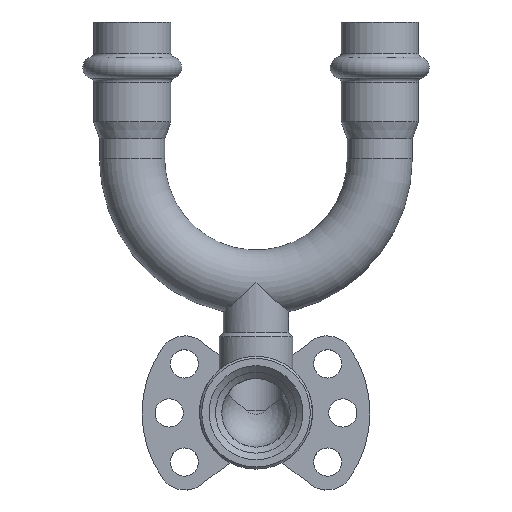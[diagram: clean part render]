
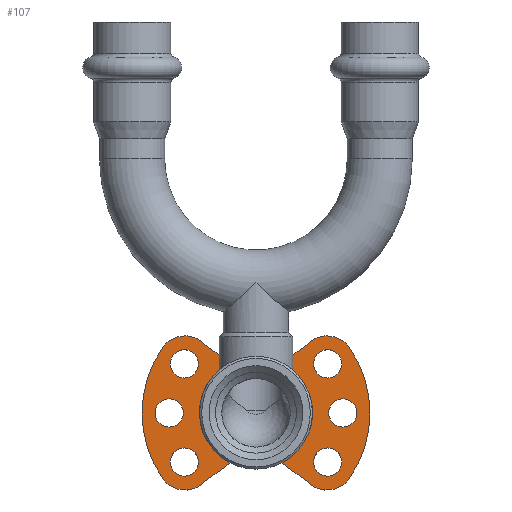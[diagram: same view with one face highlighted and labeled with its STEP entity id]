
A CAD part, top view. The second image highlights one B-rep face of the part: STEP entity #107.
In plain terms, the highlighted planar face has unit normal (0, 0, 1).
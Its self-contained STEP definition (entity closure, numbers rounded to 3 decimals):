
#107=ADVANCED_FACE('',(#798,#800,#802,#804,#806,#808,#810),#812,.F.);
#798=FACE_BOUND('',#799,.T.);
#799=EDGE_LOOP('',(#2439,#2440,#2441,#2442,#2443,#2444,#2445,#2446,#2447,#2448,#2449,
#2450,#2451,#2452,#2453,#2454,#2455,#2456));
#800=FACE_BOUND('',#801,.T.);
#801=EDGE_LOOP('',(#2457));
#802=FACE_BOUND('',#803,.T.);
#803=EDGE_LOOP('',(#2458));
#804=FACE_BOUND('',#805,.T.);
#805=EDGE_LOOP('',(#2459));
#806=FACE_BOUND('',#807,.T.);
#807=EDGE_LOOP('',(#2460));
#808=FACE_BOUND('',#809,.T.);
#809=EDGE_LOOP('',(#2461));
#810=FACE_BOUND('',#811,.T.);
#811=EDGE_LOOP('',(#2462));
#812=PLANE('',#813);
#813=AXIS2_PLACEMENT_3D('',#814,#815,#816);
#814=CARTESIAN_POINT('',(0.,0.,-12.));
#815=DIRECTION('',(0.,0.,-1.));
#816=DIRECTION('',(-1.,0.,0.));
#2439=ORIENTED_EDGE('',*,*,#3925,.F.);
#2440=ORIENTED_EDGE('',*,*,#3762,.T.);
#2441=ORIENTED_EDGE('',*,*,#3758,.F.);
#2442=ORIENTED_EDGE('',*,*,#3926,.F.);
#2443=ORIENTED_EDGE('',*,*,#3927,.F.);
#2444=ORIENTED_EDGE('',*,*,#3928,.F.);
#2445=ORIENTED_EDGE('',*,*,#3929,.F.);
#2446=ORIENTED_EDGE('',*,*,#3930,.F.);
#2447=ORIENTED_EDGE('',*,*,#3931,.T.);
#2448=ORIENTED_EDGE('',*,*,#3932,.T.);
#2449=ORIENTED_EDGE('',*,*,#3933,.T.);
#2450=ORIENTED_EDGE('',*,*,#3934,.T.);
#2451=ORIENTED_EDGE('',*,*,#3935,.T.);
#2452=ORIENTED_EDGE('',*,*,#3936,.T.);
#2453=ORIENTED_EDGE('',*,*,#3754,.T.);
#2454=ORIENTED_EDGE('',*,*,#3751,.T.);
#2455=ORIENTED_EDGE('',*,*,#3924,.F.);
#2456=ORIENTED_EDGE('',*,*,#3937,.T.);
#2457=ORIENTED_EDGE('',*,*,#3938,.T.);
#2458=ORIENTED_EDGE('',*,*,#3939,.T.);
#2459=ORIENTED_EDGE('',*,*,#3940,.T.);
#2460=ORIENTED_EDGE('',*,*,#3941,.F.);
#2461=ORIENTED_EDGE('',*,*,#3942,.F.);
#2462=ORIENTED_EDGE('',*,*,#3943,.F.);
#3751=EDGE_CURVE('',#4452,#4450,#4453,.T.);
#3754=EDGE_CURVE('',#4456,#4452,#4457,.T.);
#3758=EDGE_CURVE('',#4462,#4464,#4465,.T.);
#3762=EDGE_CURVE('',#4468,#4464,#4471,.F.);
#3924=EDGE_CURVE('',#4790,#4450,#4792,.F.);
#3925=EDGE_CURVE('',#4468,#4793,#4794,.F.);
#3926=EDGE_CURVE('',#4795,#4462,#4796,.T.);
#3927=EDGE_CURVE('',#4797,#4795,#4798,.T.);
#3928=EDGE_CURVE('',#4799,#4797,#4800,.T.);
#3929=EDGE_CURVE('',#4801,#4799,#4802,.T.);
#3930=EDGE_CURVE('',#4803,#4801,#4804,.T.);
#3931=EDGE_CURVE('',#4803,#4805,#4806,.T.);
#3932=EDGE_CURVE('',#4805,#4807,#4808,.T.);
#3933=EDGE_CURVE('',#4807,#4809,#4810,.T.);
#3934=EDGE_CURVE('',#4809,#4811,#4812,.T.);
#3935=EDGE_CURVE('',#4811,#4813,#4814,.T.);
#3936=EDGE_CURVE('',#4813,#4456,#4815,.T.);
#3937=EDGE_CURVE('',#4790,#4793,#4816,.F.);
#3938=EDGE_CURVE('',#4817,#4817,#4818,.T.);
#3939=EDGE_CURVE('',#4819,#4819,#4820,.T.);
#3940=EDGE_CURVE('',#4821,#4821,#4822,.T.);
#3941=EDGE_CURVE('',#4823,#4823,#4824,.T.);
#3942=EDGE_CURVE('',#4825,#4825,#4826,.T.);
#3943=EDGE_CURVE('',#4827,#4827,#4828,.T.);
#4450=VERTEX_POINT('',#6537);
#4452=VERTEX_POINT('',#6541);
#4453=LINE('',#6542,#6543);
#4456=VERTEX_POINT('',#6552);
#4457=LINE('',#6553,#6554);
#4462=VERTEX_POINT('',#6564);
#4464=VERTEX_POINT('',#6568);
#4465=LINE('',#6569,#6570);
#4468=VERTEX_POINT('',#6576);
#4471=LINE('',#6584,#6585);
#4790=VERTEX_POINT('',#8124);
#4792=CIRCLE('',#8128,1.);
#4793=VERTEX_POINT('',#8132);
#4794=CIRCLE('',#8133,1.);
#4795=VERTEX_POINT('',#8137);
#4796=LINE('',#8138,#8139);
#4797=VERTEX_POINT('',#8141);
#4798=CIRCLE('',#8142,6.25);
#4799=VERTEX_POINT('',#8146);
#4800=CIRCLE('',#8147,26.25);
#4801=VERTEX_POINT('',#8151);
#4802=CIRCLE('',#8152,6.25);
#4803=VERTEX_POINT('',#8156);
#4804=LINE('',#8157,#8158);
#4805=VERTEX_POINT('',#8160);
#4806=LINE('',#8161,#8162);
#4807=VERTEX_POINT('',#8164);
#4808=LINE('',#8165,#8166);
#4809=VERTEX_POINT('',#8168);
#4810=CIRCLE('',#8169,6.25);
#4811=VERTEX_POINT('',#8173);
#4812=CIRCLE('',#8174,26.25);
#4813=VERTEX_POINT('',#8178);
#4814=CIRCLE('',#8179,6.25);
#4815=LINE('',#8183,#8184);
#4816=LINE('',#8186,#8187);
#4817=VERTEX_POINT('',#8189);
#4818=CIRCLE('',#8190,3.25);
#4819=VERTEX_POINT('',#8194);
#4820=CIRCLE('',#8195,3.25);
#4821=VERTEX_POINT('',#8199);
#4822=CIRCLE('',#8200,3.25);
#4823=VERTEX_POINT('',#8204);
#4824=CIRCLE('',#8205,3.25);
#4825=VERTEX_POINT('',#8209);
#4826=CIRCLE('',#8210,3.25);
#4827=VERTEX_POINT('',#8214);
#4828=CIRCLE('',#8215,3.25);
#6537=CARTESIAN_POINT('',(4.,-4.25,-12.));
#6541=CARTESIAN_POINT('',(4.,10.75,-12.));
#6542=CARTESIAN_POINT('',(4.,10.75,-12.));
#6543=VECTOR('',#6544,1.);
#6544=DIRECTION('',(0.,-1.,0.));
#6552=CARTESIAN_POINT('',(5.,10.75,-12.));
#6553=CARTESIAN_POINT('',(5.,10.75,-12.));
#6554=VECTOR('',#6555,1.);
#6555=DIRECTION('',(-1.,0.,0.));
#6564=CARTESIAN_POINT('',(-5.,10.75,-12.));
#6568=CARTESIAN_POINT('',(-4.,10.75,-12.));
#6569=CARTESIAN_POINT('',(-5.,10.75,-12.));
#6570=VECTOR('',#6571,1.);
#6571=DIRECTION('',(1.,0.,0.));
#6576=CARTESIAN_POINT('',(-4.,-4.25,-12.));
#6584=CARTESIAN_POINT('',(-4.,10.75,-12.));
#6585=VECTOR('',#6586,1.);
#6586=DIRECTION('',(0.,-1.,0.));
#8124=CARTESIAN_POINT('',(3.,-5.25,-12.));
#8128=AXIS2_PLACEMENT_3D('',#8129,#8130,#8131);
#8129=CARTESIAN_POINT('',(3.,-4.25,-12.));
#8130=DIRECTION('',(0.,0.,-1.));
#8131=DIRECTION('',(1.,0.,0.));
#8132=CARTESIAN_POINT('',(-3.,-5.25,-12.));
#8133=AXIS2_PLACEMENT_3D('',#8134,#8135,#8136);
#8134=CARTESIAN_POINT('',(-3.,-4.25,-12.));
#8135=DIRECTION('',(0.,0.,-1.));
#8136=DIRECTION('',(0.,-1.,0.));
#8137=CARTESIAN_POINT('',(-12.019,15.993,-12.));
#8138=CARTESIAN_POINT('',(-12.019,15.993,-12.));
#8139=VECTOR('',#8140,1.);
#8140=DIRECTION('',(0.801,-0.598,0.));
#8141=CARTESIAN_POINT('',(-21.477,15.094,-12.));
#8142=AXIS2_PLACEMENT_3D('',#8143,#8144,#8145);
#8143=CARTESIAN_POINT('',(-16.363,11.5,-12.));
#8144=DIRECTION('',(0.,0.,-1.));
#8145=DIRECTION('',(-0.818,0.575,0.));
#8146=CARTESIAN_POINT('',(-21.477,-15.094,-12.));
#8147=AXIS2_PLACEMENT_3D('',#8148,#8149,#8150);
#8148=CARTESIAN_POINT('',(0.,0.,-12.));
#8149=DIRECTION('',(0.,0.,-1.));
#8150=DIRECTION('',(-0.818,-0.575,0.));
#8151=CARTESIAN_POINT('',(-12.019,-15.993,-12.));
#8152=AXIS2_PLACEMENT_3D('',#8153,#8154,#8155);
#8153=CARTESIAN_POINT('',(-16.363,-11.5,-12.));
#8154=DIRECTION('',(0.,0.,-1.));
#8155=DIRECTION('',(0.695,-0.719,0.));
#8156=CARTESIAN_POINT('',(-5.,-10.75,-12.));
#8157=CARTESIAN_POINT('',(-5.,-10.75,-12.));
#8158=VECTOR('',#8159,1.);
#8159=DIRECTION('',(-0.801,-0.598,0.));
#8160=CARTESIAN_POINT('',(5.,-10.75,-12.));
#8161=CARTESIAN_POINT('',(-5.,-10.75,-12.));
#8162=VECTOR('',#8163,1.);
#8163=DIRECTION('',(1.,0.,0.));
#8164=CARTESIAN_POINT('',(12.019,-15.993,-12.));
#8165=CARTESIAN_POINT('',(5.,-10.75,-12.));
#8166=VECTOR('',#8167,1.);
#8167=DIRECTION('',(0.801,-0.598,0.));
#8168=CARTESIAN_POINT('',(21.477,-15.094,-12.));
#8169=AXIS2_PLACEMENT_3D('',#8170,#8171,#8172);
#8170=CARTESIAN_POINT('',(16.363,-11.5,-12.));
#8171=DIRECTION('',(0.,0.,1.));
#8172=DIRECTION('',(-0.695,-0.719,0.));
#8173=CARTESIAN_POINT('',(21.477,15.094,-12.));
#8174=AXIS2_PLACEMENT_3D('',#8175,#8176,#8177);
#8175=CARTESIAN_POINT('',(0.,0.,-12.));
#8176=DIRECTION('',(0.,0.,1.));
#8177=DIRECTION('',(0.818,-0.575,0.));
#8178=CARTESIAN_POINT('',(12.019,15.993,-12.));
#8179=AXIS2_PLACEMENT_3D('',#8180,#8181,#8182);
#8180=CARTESIAN_POINT('',(16.363,11.5,-12.));
#8181=DIRECTION('',(0.,0.,1.));
#8182=DIRECTION('',(0.818,0.575,0.));
#8183=CARTESIAN_POINT('',(12.019,15.993,-12.));
#8184=VECTOR('',#8185,1.);
#8185=DIRECTION('',(-0.801,-0.598,0.));
#8186=CARTESIAN_POINT('',(-3.,-5.25,-12.));
#8187=VECTOR('',#8188,1.);
#8188=DIRECTION('',(1.,0.,0.));
#8189=CARTESIAN_POINT('',(-19.75,-11.303,-12.));
#8190=AXIS2_PLACEMENT_3D('',#8191,#8192,#8193);
#8191=CARTESIAN_POINT('',(-16.5,-11.303,-12.));
#8192=DIRECTION('',(0.,0.,-1.));
#8193=DIRECTION('',(-1.,0.,0.));
#8194=CARTESIAN_POINT('',(-19.75,11.303,-12.));
#8195=AXIS2_PLACEMENT_3D('',#8196,#8197,#8198);
#8196=CARTESIAN_POINT('',(-16.5,11.303,-12.));
#8197=DIRECTION('',(0.,0.,-1.));
#8198=DIRECTION('',(-1.,0.,0.));
#8199=CARTESIAN_POINT('',(-23.25,0.,-12.));
#8200=AXIS2_PLACEMENT_3D('',#8201,#8202,#8203);
#8201=CARTESIAN_POINT('',(-20.,0.,-12.));
#8202=DIRECTION('',(0.,0.,-1.));
#8203=DIRECTION('',(-1.,0.,0.));
#8204=CARTESIAN_POINT('',(23.25,0.,-12.));
#8205=AXIS2_PLACEMENT_3D('',#8206,#8207,#8208);
#8206=CARTESIAN_POINT('',(20.,0.,-12.));
#8207=DIRECTION('',(0.,0.,1.));
#8208=DIRECTION('',(1.,0.,0.));
#8209=CARTESIAN_POINT('',(19.75,11.303,-12.));
#8210=AXIS2_PLACEMENT_3D('',#8211,#8212,#8213);
#8211=CARTESIAN_POINT('',(16.5,11.303,-12.));
#8212=DIRECTION('',(0.,0.,1.));
#8213=DIRECTION('',(1.,0.,0.));
#8214=CARTESIAN_POINT('',(19.75,-11.303,-12.));
#8215=AXIS2_PLACEMENT_3D('',#8216,#8217,#8218);
#8216=CARTESIAN_POINT('',(16.5,-11.303,-12.));
#8217=DIRECTION('',(0.,0.,1.));
#8218=DIRECTION('',(1.,0.,0.));
